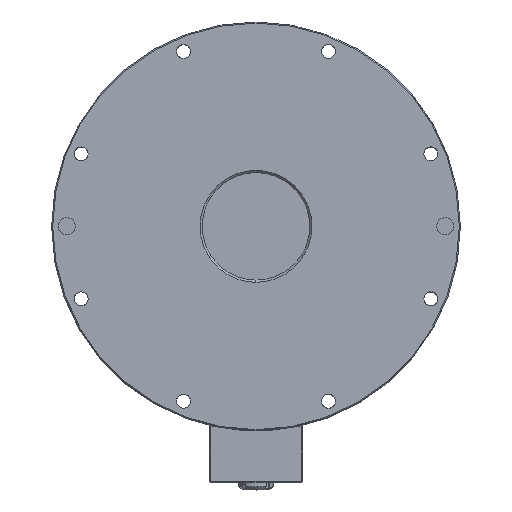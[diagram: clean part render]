
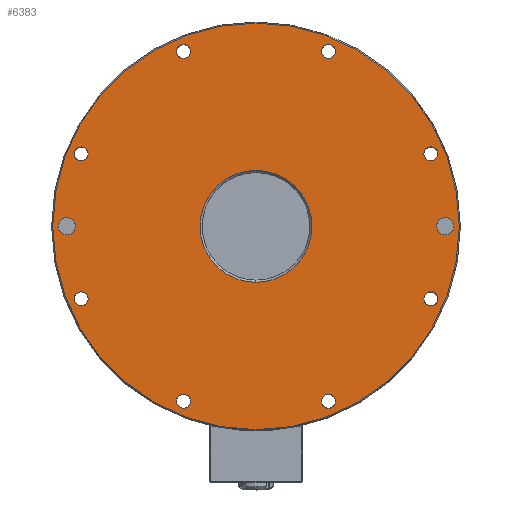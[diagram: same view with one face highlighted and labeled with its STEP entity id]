
A CAD part, top view. The second image highlights one B-rep face of the part: STEP entity #6383.
In plain terms, the highlighted planar face has unit normal (0, 0, 1).
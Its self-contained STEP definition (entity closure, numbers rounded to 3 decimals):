
#5680=CARTESIAN_POINT('',(0.,0.,13.));
#5681=DIRECTION('',(0.,0.,-1.));
#5682=DIRECTION('',(0.,-1.,0.));
#5683=AXIS2_PLACEMENT_3D('',#5680,#5681,#5682);
#5685=CARTESIAN_POINT('',(0.,0.,13.));
#5686=DIRECTION('',(0.,0.,-1.));
#5687=DIRECTION('',(0.,1.,0.));
#5688=AXIS2_PLACEMENT_3D('',#5685,#5686,#5687);
#5690=CARTESIAN_POINT('',(33.676,-81.301,13.));
#5691=DIRECTION('',(0.,0.,1.));
#5692=DIRECTION('',(-0.707,-0.707,0.));
#5693=AXIS2_PLACEMENT_3D('',#5690,#5691,#5692);
#5695=CARTESIAN_POINT('',(33.676,-81.301,13.));
#5696=DIRECTION('',(0.,0.,1.));
#5697=DIRECTION('',(0.707,0.707,0.));
#5698=AXIS2_PLACEMENT_3D('',#5695,#5696,#5697);
#5700=CARTESIAN_POINT('',(81.301,-33.676,13.));
#5701=DIRECTION('',(0.,0.,1.));
#5702=DIRECTION('',(0.,-1.,0.));
#5703=AXIS2_PLACEMENT_3D('',#5700,#5701,#5702);
#5705=CARTESIAN_POINT('',(81.301,-33.676,13.));
#5706=DIRECTION('',(0.,0.,1.));
#5707=DIRECTION('',(0.,1.,0.));
#5708=AXIS2_PLACEMENT_3D('',#5705,#5706,#5707);
#5710=CARTESIAN_POINT('',(81.301,33.676,13.));
#5711=DIRECTION('',(0.,0.,1.));
#5712=DIRECTION('',(0.707,-0.707,0.));
#5713=AXIS2_PLACEMENT_3D('',#5710,#5711,#5712);
#5715=CARTESIAN_POINT('',(81.301,33.676,13.));
#5716=DIRECTION('',(0.,0.,1.));
#5717=DIRECTION('',(-0.707,0.707,0.));
#5718=AXIS2_PLACEMENT_3D('',#5715,#5716,#5717);
#5720=CARTESIAN_POINT('',(33.676,81.301,13.));
#5721=DIRECTION('',(0.,0.,1.));
#5722=DIRECTION('',(1.,0.,0.));
#5723=AXIS2_PLACEMENT_3D('',#5720,#5721,#5722);
#5725=CARTESIAN_POINT('',(33.676,81.301,13.));
#5726=DIRECTION('',(0.,0.,1.));
#5727=DIRECTION('',(-1.,0.,0.));
#5728=AXIS2_PLACEMENT_3D('',#5725,#5726,#5727);
#5730=CARTESIAN_POINT('',(-33.676,81.301,13.));
#5731=DIRECTION('',(0.,0.,1.));
#5732=DIRECTION('',(0.707,0.707,0.));
#5733=AXIS2_PLACEMENT_3D('',#5730,#5731,#5732);
#5735=CARTESIAN_POINT('',(-33.676,81.301,13.));
#5736=DIRECTION('',(0.,0.,1.));
#5737=DIRECTION('',(-0.707,-0.707,0.));
#5738=AXIS2_PLACEMENT_3D('',#5735,#5736,#5737);
#5740=CARTESIAN_POINT('',(-81.301,33.676,13.));
#5741=DIRECTION('',(0.,0.,1.));
#5742=DIRECTION('',(0.,1.,0.));
#5743=AXIS2_PLACEMENT_3D('',#5740,#5741,#5742);
#5745=CARTESIAN_POINT('',(-81.301,33.676,13.));
#5746=DIRECTION('',(0.,0.,1.));
#5747=DIRECTION('',(0.,-1.,0.));
#5748=AXIS2_PLACEMENT_3D('',#5745,#5746,#5747);
#5750=CARTESIAN_POINT('',(-81.301,-33.676,13.));
#5751=DIRECTION('',(0.,0.,1.));
#5752=DIRECTION('',(-0.707,0.707,0.));
#5753=AXIS2_PLACEMENT_3D('',#5750,#5751,#5752);
#5755=CARTESIAN_POINT('',(-81.301,-33.676,13.));
#5756=DIRECTION('',(0.,0.,1.));
#5757=DIRECTION('',(0.707,-0.707,0.));
#5758=AXIS2_PLACEMENT_3D('',#5755,#5756,#5757);
#5760=CARTESIAN_POINT('',(0.,88.,13.));
#5761=DIRECTION('',(0.,0.,1.));
#5762=DIRECTION('',(1.,0.,0.));
#5763=AXIS2_PLACEMENT_3D('',#5760,#5761,#5762);
#5765=CARTESIAN_POINT('',(0.,88.,13.));
#5766=DIRECTION('',(0.,0.,1.));
#5767=DIRECTION('',(-1.,0.,0.));
#5768=AXIS2_PLACEMENT_3D('',#5765,#5766,#5767);
#5770=CARTESIAN_POINT('',(0.,-88.,13.));
#5771=DIRECTION('',(0.,0.,1.));
#5772=DIRECTION('',(-1.,0.,0.));
#5773=AXIS2_PLACEMENT_3D('',#5770,#5771,#5772);
#5775=CARTESIAN_POINT('',(0.,-88.,13.));
#5776=DIRECTION('',(0.,0.,1.));
#5777=DIRECTION('',(1.,0.,0.));
#5778=AXIS2_PLACEMENT_3D('',#5775,#5776,#5777);
#5780=CARTESIAN_POINT('',(-33.676,-81.301,13.));
#5781=DIRECTION('',(0.,0.,1.));
#5782=DIRECTION('',(-1.,0.,0.));
#5783=AXIS2_PLACEMENT_3D('',#5780,#5781,#5782);
#5785=CARTESIAN_POINT('',(-33.676,-81.301,13.));
#5786=DIRECTION('',(0.,0.,1.));
#5787=DIRECTION('',(1.,0.,0.));
#5788=AXIS2_PLACEMENT_3D('',#5785,#5786,#5787);
#5790=CARTESIAN_POINT('',(0.,0.,13.));
#5791=DIRECTION('',(0.,0.,1.));
#5792=DIRECTION('',(1.,0.,0.));
#5793=AXIS2_PLACEMENT_3D('',#5790,#5791,#5792);
#5795=CARTESIAN_POINT('',(0.,0.,13.));
#5796=DIRECTION('',(0.,0.,1.));
#5797=DIRECTION('',(0.,1.,0.));
#5798=AXIS2_PLACEMENT_3D('',#5795,#5796,#5797);
#5800=CARTESIAN_POINT('',(0.,0.,13.));
#5801=DIRECTION('',(0.,0.,1.));
#5802=DIRECTION('',(-1.,0.,0.));
#5803=AXIS2_PLACEMENT_3D('',#5800,#5801,#5802);
#5805=CARTESIAN_POINT('',(0.,0.,13.));
#5806=DIRECTION('',(0.,0.,1.));
#5807=DIRECTION('',(0.,-1.,0.));
#5808=AXIS2_PLACEMENT_3D('',#5805,#5806,#5807);
#6058=CARTESIAN_POINT('',(-30.426,-81.301,13.));
#6059=VERTEX_POINT('',#6058);
#6060=CARTESIAN_POINT('',(-36.926,-81.301,13.));
#6061=VERTEX_POINT('',#6060);
#6062=CARTESIAN_POINT('',(0.,-94.5,13.));
#6063=CARTESIAN_POINT('',(0.,94.5,13.));
#6064=VERTEX_POINT('',#6062);
#6065=VERTEX_POINT('',#6063);
#6066=CARTESIAN_POINT('',(31.378,-83.599,13.));
#6067=CARTESIAN_POINT('',(35.974,-79.003,13.));
#6068=VERTEX_POINT('',#6066);
#6069=VERTEX_POINT('',#6067);
#6070=CARTESIAN_POINT('',(81.301,-36.926,13.));
#6071=CARTESIAN_POINT('',(81.301,-30.426,13.));
#6072=VERTEX_POINT('',#6070);
#6073=VERTEX_POINT('',#6071);
#6074=CARTESIAN_POINT('',(83.599,31.378,13.));
#6075=CARTESIAN_POINT('',(79.003,35.974,13.));
#6076=VERTEX_POINT('',#6074);
#6077=VERTEX_POINT('',#6075);
#6078=CARTESIAN_POINT('',(36.926,81.301,13.));
#6079=CARTESIAN_POINT('',(30.426,81.301,13.));
#6080=VERTEX_POINT('',#6078);
#6081=VERTEX_POINT('',#6079);
#6082=CARTESIAN_POINT('',(-31.378,83.599,13.));
#6083=CARTESIAN_POINT('',(-35.974,79.003,13.));
#6084=VERTEX_POINT('',#6082);
#6085=VERTEX_POINT('',#6083);
#6086=CARTESIAN_POINT('',(-81.301,36.926,13.));
#6087=CARTESIAN_POINT('',(-81.301,30.426,13.));
#6088=VERTEX_POINT('',#6086);
#6089=VERTEX_POINT('',#6087);
#6090=CARTESIAN_POINT('',(-83.599,-31.378,13.));
#6091=CARTESIAN_POINT('',(-79.003,-35.974,13.));
#6092=VERTEX_POINT('',#6090);
#6093=VERTEX_POINT('',#6091);
#6094=CARTESIAN_POINT('',(4.005,88.,13.));
#6095=CARTESIAN_POINT('',(-4.005,88.,13.));
#6096=VERTEX_POINT('',#6094);
#6097=VERTEX_POINT('',#6095);
#6098=CARTESIAN_POINT('',(-4.005,-88.,13.));
#6099=CARTESIAN_POINT('',(4.005,-88.,13.));
#6100=VERTEX_POINT('',#6098);
#6101=VERTEX_POINT('',#6099);
#6102=CARTESIAN_POINT('',(0.,26.,13.));
#6103=CARTESIAN_POINT('',(-26.,0.,13.));
#6104=VERTEX_POINT('',#6102);
#6105=VERTEX_POINT('',#6103);
#6106=CARTESIAN_POINT('',(26.,0.,13.));
#6107=VERTEX_POINT('',#6106);
#6108=CARTESIAN_POINT('',(0.,-26.,13.));
#6109=VERTEX_POINT('',#6108);
#6303=CARTESIAN_POINT('',(0.,0.,13.));
#6304=DIRECTION('',(0.,0.,1.));
#6305=DIRECTION('',(0.,-1.,0.));
#6306=AXIS2_PLACEMENT_3D('',#6303,#6304,#6305);
#6307=PLANE('',#6306);
#6308=ORIENTED_EDGE('',*,*,#6293,.T.);
#6310=ORIENTED_EDGE('',*,*,#6309,.T.);
#6311=EDGE_LOOP('',(#6308,#6310));
#6312=FACE_OUTER_BOUND('',#6311,.F.);
#6314=ORIENTED_EDGE('',*,*,#6313,.T.);
#6316=ORIENTED_EDGE('',*,*,#6315,.T.);
#6317=EDGE_LOOP('',(#6314,#6316));
#6318=FACE_BOUND('',#6317,.F.);
#6320=ORIENTED_EDGE('',*,*,#6319,.T.);
#6322=ORIENTED_EDGE('',*,*,#6321,.T.);
#6323=EDGE_LOOP('',(#6320,#6322));
#6324=FACE_BOUND('',#6323,.F.);
#6326=ORIENTED_EDGE('',*,*,#6325,.T.);
#6328=ORIENTED_EDGE('',*,*,#6327,.T.);
#6329=EDGE_LOOP('',(#6326,#6328));
#6330=FACE_BOUND('',#6329,.F.);
#6332=ORIENTED_EDGE('',*,*,#6331,.T.);
#6334=ORIENTED_EDGE('',*,*,#6333,.T.);
#6335=EDGE_LOOP('',(#6332,#6334));
#6336=FACE_BOUND('',#6335,.F.);
#6338=ORIENTED_EDGE('',*,*,#6337,.T.);
#6340=ORIENTED_EDGE('',*,*,#6339,.T.);
#6341=EDGE_LOOP('',(#6338,#6340));
#6342=FACE_BOUND('',#6341,.F.);
#6344=ORIENTED_EDGE('',*,*,#6343,.T.);
#6346=ORIENTED_EDGE('',*,*,#6345,.T.);
#6347=EDGE_LOOP('',(#6344,#6346));
#6348=FACE_BOUND('',#6347,.F.);
#6350=ORIENTED_EDGE('',*,*,#6349,.T.);
#6352=ORIENTED_EDGE('',*,*,#6351,.T.);
#6353=EDGE_LOOP('',(#6350,#6352));
#6354=FACE_BOUND('',#6353,.F.);
#6356=ORIENTED_EDGE('',*,*,#6355,.T.);
#6358=ORIENTED_EDGE('',*,*,#6357,.T.);
#6359=EDGE_LOOP('',(#6356,#6358));
#6360=FACE_BOUND('',#6359,.F.);
#6362=ORIENTED_EDGE('',*,*,#6361,.T.);
#6364=ORIENTED_EDGE('',*,*,#6363,.T.);
#6365=EDGE_LOOP('',(#6362,#6364));
#6366=FACE_BOUND('',#6365,.F.);
#6368=ORIENTED_EDGE('',*,*,#6367,.T.);
#6370=ORIENTED_EDGE('',*,*,#6369,.T.);
#6371=EDGE_LOOP('',(#6368,#6370));
#6372=FACE_BOUND('',#6371,.F.);
#6374=ORIENTED_EDGE('',*,*,#6373,.T.);
#6376=ORIENTED_EDGE('',*,*,#6375,.T.);
#6378=ORIENTED_EDGE('',*,*,#6377,.T.);
#6380=ORIENTED_EDGE('',*,*,#6379,.T.);
#6381=EDGE_LOOP('',(#6374,#6376,#6378,#6380));
#6382=FACE_BOUND('',#6381,.F.);
#6383=ADVANCED_FACE('',(#6312,#6318,#6324,#6330,#6336,#6342,#6348,#6354,#6360,
#6366,#6372,#6382),#6307,.T.);
#5684=CIRCLE('',#5683,94.5);
#5689=CIRCLE('',#5688,94.5);
#5694=CIRCLE('',#5693,3.25);
#5699=CIRCLE('',#5698,3.25);
#5704=CIRCLE('',#5703,3.25);
#5709=CIRCLE('',#5708,3.25);
#5714=CIRCLE('',#5713,3.25);
#5719=CIRCLE('',#5718,3.25);
#5724=CIRCLE('',#5723,3.25);
#5729=CIRCLE('',#5728,3.25);
#5734=CIRCLE('',#5733,3.25);
#5739=CIRCLE('',#5738,3.25);
#5744=CIRCLE('',#5743,3.25);
#5749=CIRCLE('',#5748,3.25);
#5754=CIRCLE('',#5753,3.25);
#5759=CIRCLE('',#5758,3.25);
#5764=CIRCLE('',#5763,4.005);
#5769=CIRCLE('',#5768,4.005);
#5774=CIRCLE('',#5773,4.005);
#5779=CIRCLE('',#5778,4.005);
#5784=CIRCLE('',#5783,3.25);
#5789=CIRCLE('',#5788,3.25);
#5794=CIRCLE('',#5793,26.);
#5799=CIRCLE('',#5798,26.);
#5804=CIRCLE('',#5803,26.);
#5809=CIRCLE('',#5808,26.);
#6293=EDGE_CURVE('',#6064,#6065,#5684,.T.);
#6309=EDGE_CURVE('',#6065,#6064,#5689,.T.);
#6313=EDGE_CURVE('',#6068,#6069,#5694,.T.);
#6315=EDGE_CURVE('',#6069,#6068,#5699,.T.);
#6319=EDGE_CURVE('',#6072,#6073,#5704,.T.);
#6321=EDGE_CURVE('',#6073,#6072,#5709,.T.);
#6325=EDGE_CURVE('',#6076,#6077,#5714,.T.);
#6327=EDGE_CURVE('',#6077,#6076,#5719,.T.);
#6331=EDGE_CURVE('',#6080,#6081,#5724,.T.);
#6333=EDGE_CURVE('',#6081,#6080,#5729,.T.);
#6337=EDGE_CURVE('',#6084,#6085,#5734,.T.);
#6339=EDGE_CURVE('',#6085,#6084,#5739,.T.);
#6343=EDGE_CURVE('',#6088,#6089,#5744,.T.);
#6345=EDGE_CURVE('',#6089,#6088,#5749,.T.);
#6349=EDGE_CURVE('',#6092,#6093,#5754,.T.);
#6351=EDGE_CURVE('',#6093,#6092,#5759,.T.);
#6355=EDGE_CURVE('',#6096,#6097,#5764,.T.);
#6357=EDGE_CURVE('',#6097,#6096,#5769,.T.);
#6361=EDGE_CURVE('',#6100,#6101,#5774,.T.);
#6363=EDGE_CURVE('',#6101,#6100,#5779,.T.);
#6367=EDGE_CURVE('',#6061,#6059,#5784,.T.);
#6369=EDGE_CURVE('',#6059,#6061,#5789,.T.);
#6373=EDGE_CURVE('',#6107,#6104,#5794,.T.);
#6375=EDGE_CURVE('',#6104,#6105,#5799,.T.);
#6377=EDGE_CURVE('',#6105,#6109,#5804,.T.);
#6379=EDGE_CURVE('',#6109,#6107,#5809,.T.);
